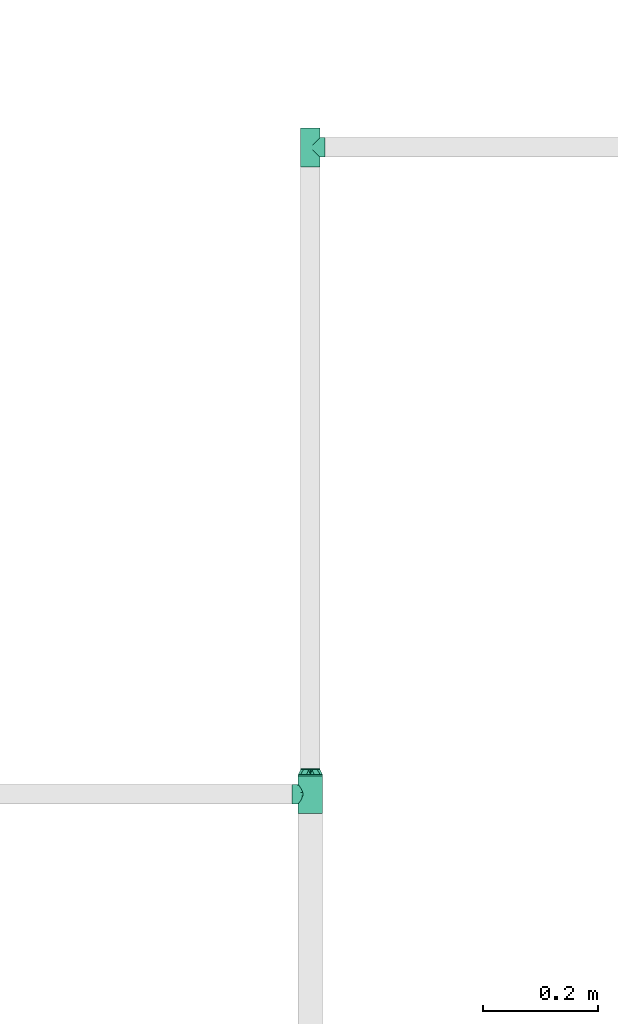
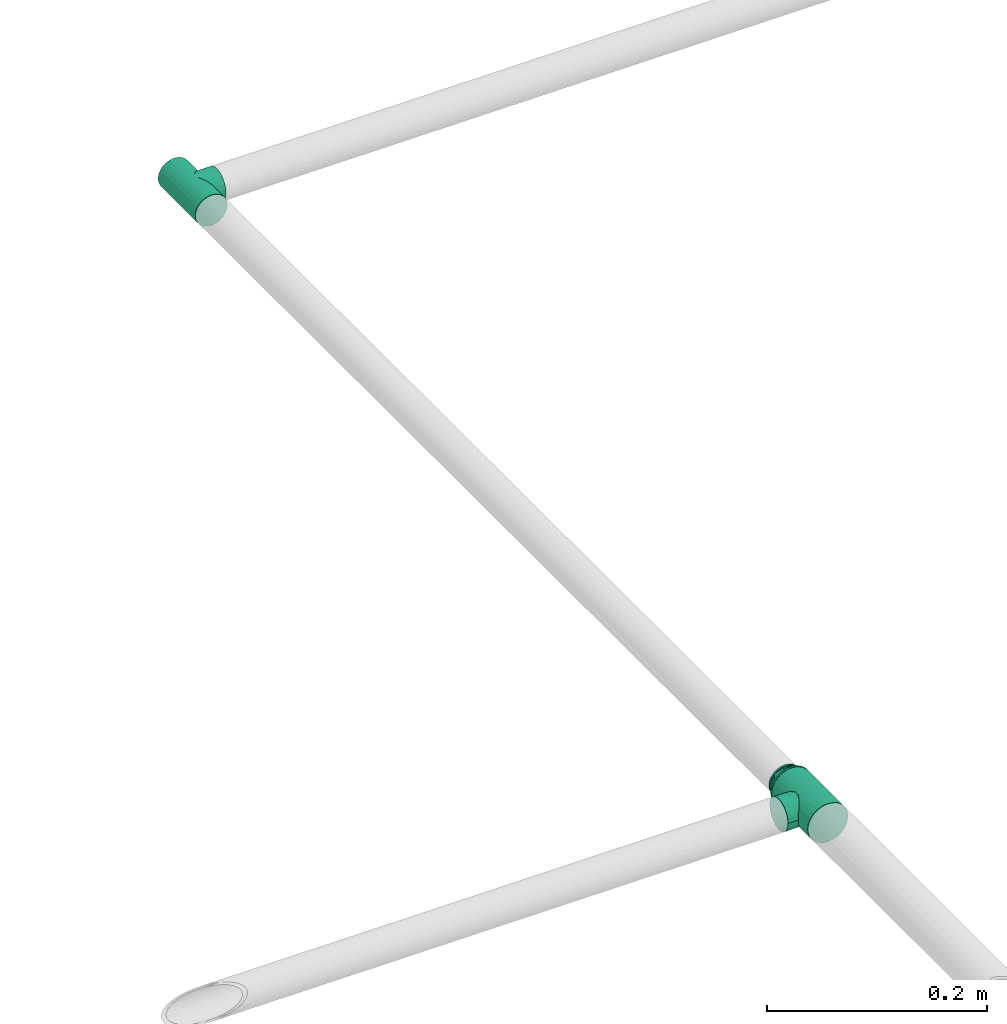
# One storey, part 80 of 94: 3 flow fittings.
"""IFC2X3 building model written with IfcOpenShell, lengths in millimetres."""

from ifc_helpers import new_model, entity, si_unit, converted_unit, derived_unit, direction, frame, origin_with_axes, place, context, subcontext, project, spatial, open_shell, surface_model, source, transform, mapped, type_object, element, save


model = new_model("IFC2X3")

# Units and contexts
model_context = context("Model", 3, precision=0.01, world=frame((0.0, 4.29681676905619e-09, 0.0)), true_north=direction((4.01073788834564e-13, 1.0)))
plan_context = context("Plan", 3, precision=0.01, world=frame((0.0, 4.29681676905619e-09, 0.0)), true_north=direction((4.01073788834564e-13, 1.0)))
body_context = subcontext(model_context, "Body", "Model", "MODEL_VIEW")
ifc_project = project(units=[converted_unit("PLANEANGLEUNIT", "DEGREE", entity("IfcPositiveLengthMeasure", 0.0174532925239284), si_unit("PLANEANGLEUNIT", "RADIAN"), dimensions=[0, 0, 0, 0, 0, 0, 0]), si_unit("AREAUNIT", "SQUARE_METRE"), si_unit("LENGTHUNIT", "METRE", prefix="MILLI"), si_unit("MASSUNIT", "GRAM", prefix="KILO"), si_unit("POWERUNIT", "WATT"), si_unit("PRESSUREUNIT", "PASCAL", prefix="KILO"), si_unit("FORCEUNIT", "NEWTON", prefix="KILO"), si_unit("ELECTRICVOLTAGEUNIT", "VOLT"), si_unit("ELECTRICCURRENTUNIT", "AMPERE"), si_unit("THERMODYNAMICTEMPERATUREUNIT", "DEGREE_CELSIUS"), si_unit("TIMEUNIT", "SECOND"), si_unit("VOLUMEUNIT", "CUBIC_METRE"), derived_unit("LINEARVELOCITYUNIT", [(si_unit("LENGTHUNIT", "METRE"), 1), (si_unit("TIMEUNIT", "SECOND"), -1)]), derived_unit("VOLUMETRICFLOWRATEUNIT", [(si_unit("VOLUMEUNIT", "CUBIC_METRE"), 1), (si_unit("TIMEUNIT", "SECOND"), -1)]), derived_unit("THERMALTRANSMITTANCEUNIT", [(si_unit("POWERUNIT", "WATT"), 1), (si_unit("THERMODYNAMICTEMPERATUREUNIT", "KELVIN"), -1), (si_unit("AREAUNIT", "SQUARE_METRE"), -1)]), derived_unit("SOUNDPRESSUREUNIT", [(si_unit("PRESSUREUNIT", "PASCAL"), 1)])], contexts=[model_context, plan_context])

# Site, building, storey
site_placement = place(None, frame((0.0, -4.29681676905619e-09, 0.0), z_axis=(0.0, 0.0, 1.0), x_axis=(1.0, 0.0, 0.0)))
site = spatial("IfcSite", under=ifc_project, at=site_placement, CompositionType="ELEMENT")
building_placement = place(site_placement, frame((0.0, 4.29681676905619e-09, 0.0), z_axis=(0.0, 0.0, 1.0), x_axis=(1.0, 0.0, 0.0)))
building = spatial("IfcBuilding", under=site, at=building_placement, Name="mc-building", CompositionType="ELEMENT")
storey_placement = place(building_placement, frame((0.0, 0.0, 210900.0), z_axis=(0.0, 0.0, 1.0), x_axis=(1.0, 0.0, 0.0)))
storey = spatial("IfcBuildingStorey", under=building, at=storey_placement, Name="Nivå F", CompositionType="ELEMENT", Elevation=210900.0)

# Flow fittings
pipe_fitting_type_1 = type_object("IfcPipeFittingType", Name="magi_pipe_fe_tee_centric_90_NOR", PredefinedType="JUNCTION")
shared_shape_1 = source(origin_with_axes(), body_context, "Body", "SurfaceModel", [
    surface_model("IfcShellBasedSurfaceModel", [(-33.8, 0.0, -21.2), (-33.8, -5.48696, -20.47763), (-33.8, 5.48696, -20.47763), (-33.8, 10.6, -18.35974), (-33.8, 14.99066, -14.99066), (-33.8, -20.47763, 5.48696), (-33.8, 18.35974, -10.6), (-33.8, 10.6, 18.35974), (-33.8, -14.99066, -14.99066), (-33.8, -18.35974, -10.6), (-33.8, -10.6, -18.35974), (-33.8, -20.47763, -5.48696), (-33.8, -21.2, 0.0), (-33.8, 18.35974, 10.6), (-33.8, 20.47763, -5.48696), (-33.8, 20.47763, 5.48696), (-33.8, 21.2, 0.0), (-33.8, 14.99066, 14.99066), (-33.8, 5.48696, 20.47763), (-33.8, 0.0, 21.2), (-33.8, -18.35974, 10.6), (-33.8, -14.99066, 14.99066), (-33.8, -10.6, 18.35974), (-33.8, -5.48696, 20.47763), (33.8, 5.48696, -20.47763), (33.8, -5.48696, -20.47763), (33.8, 0.0, -21.2), (33.8, 14.99066, -14.99066), (33.8, 10.6, -18.35974), (33.8, 18.35974, -10.6), (33.8, 20.47763, -5.48696), (33.8, -21.2, 0.0), (33.8, -10.6, -18.35974), (33.8, -18.35974, -10.6), (33.8, -14.99066, -14.99066), (33.8, -20.47763, -5.48696), (33.8, -20.47763, 5.48696), (33.8, 21.2, 0.0), (33.8, 20.47763, 5.48696), (33.8, 18.35974, 10.6), (33.8, 10.6, 18.35974), (33.8, 14.99066, 14.99066), (33.8, 0.0, 21.2), (33.8, 5.48696, 20.47763), (33.8, -14.99066, 14.99066), (33.8, -18.35974, 10.6), (33.8, -10.6, 18.35974), (33.8, -5.48696, 20.47763), (16.9, -21.2, 0.0), (15.78624, -20.32327, 6.03364), (12.81343, -18.11115, 11.01935), (8.52479, -15.37862, 14.59239), (3.07939, -13.16482, 16.61708), (-16.9, -21.2, 0.0), (-15.78686, -20.32375, 6.032), (-8.52604, -15.37932, 14.59166), (-3.0848, -13.16609, 16.61608), (-12.81602, -18.11299, 11.01634), (3.07939, -13.16482, -16.61708), (12.81343, -18.11115, -11.01935), (8.52479, -15.37862, -14.59239), (15.78624, -20.32327, -6.03364), (-3.0848, -13.16609, -16.61608), (-8.52604, -15.37932, -14.59166), (-12.81602, -18.11299, -11.01634), (-15.78686, -20.32375, -6.032), (4.37404, -31.8, -16.32415), (-16.9, -31.8, 0.0), (0.0, -31.8, -16.9), (14.63583, -31.8, -8.45), (8.45, -31.8, -14.63583), (16.32415, -31.8, -4.37404), (11.9501, -31.8, -11.9501), (-11.9501, -31.8, -11.9501), (-8.45, -31.8, -14.63583), (-4.37404, -31.8, -16.32415), (-14.63583, -31.8, -8.45), (-16.32415, -31.8, -4.37404), (16.9, -31.8, 0.0), (8.45, -31.8, 14.63583), (16.32415, -31.8, 4.37404), (14.63583, -31.8, 8.45), (-8.45, -31.8, 14.63583), (11.9501, -31.8, 11.9501), (4.37404, -31.8, 16.32415), (-16.32415, -31.8, 4.37404), (-11.9501, -31.8, 11.9501), (-14.63583, -31.8, 8.45), (0.0, -31.8, 16.9), (-4.37404, -31.8, 16.32415), (-16.34343, -20.76188, 3.016), (16.34312, -20.76163, 3.01682), (-0.00271, -13.16546, 16.61658), (16.34312, -20.76163, -3.01682), (-0.00271, -13.16546, -16.61658), (-16.34343, -20.76188, -3.016)], [open_shell([[[0, 1, 2]], [[3, 2, 4]], [[5, 2, 1]], [[4, 2, 6]], [[6, 2, 7]], [[8, 9, 10]], [[1, 10, 9]], [[9, 11, 1]], [[12, 1, 11]], [[5, 1, 12]], [[13, 14, 6]], [[13, 15, 16]], [[6, 7, 13]], [[5, 7, 2]], [[17, 13, 7]], [[18, 7, 19]], [[20, 21, 5]], [[22, 5, 21]], [[23, 19, 22]], [[7, 5, 22]], [[22, 19, 7]], [[16, 14, 13]], [[24, 25, 26]], [[27, 24, 28]], [[29, 30, 24]], [[29, 24, 27]], [[31, 24, 30]], [[32, 33, 34]], [[33, 32, 25]], [[33, 31, 35]], [[31, 33, 25]], [[25, 24, 31]], [[30, 36, 31]], [[37, 38, 39]], [[37, 39, 40]], [[37, 40, 36]], [[40, 39, 41]], [[42, 40, 43]], [[36, 44, 45]], [[44, 36, 46]], [[46, 42, 47]], [[46, 36, 40]], [[40, 42, 46]], [[37, 36, 30]], [[31, 36, 48]], [[49, 48, 36]], [[36, 45, 49]], [[45, 44, 50]], [[51, 50, 44]], [[52, 51, 44]], [[44, 46, 52]], [[45, 50, 49]], [[53, 54, 5]], [[5, 12, 53]], [[54, 20, 5]], [[55, 56, 21]], [[20, 57, 21]], [[57, 20, 54]], [[21, 57, 55]], [[56, 22, 21]], [[52, 22, 56]], [[19, 47, 42]], [[23, 46, 47]], [[18, 42, 43]], [[39, 38, 15]], [[17, 40, 41]], [[13, 41, 39]], [[43, 40, 7]], [[16, 38, 37]], [[22, 46, 23]], [[23, 47, 19]], [[18, 19, 42]], [[43, 7, 18]], [[7, 40, 17]], [[13, 17, 41]], [[15, 13, 39]], [[38, 16, 15]], [[46, 22, 52]], [[6, 30, 29]], [[14, 37, 30]], [[4, 29, 27]], [[26, 25, 1]], [[2, 28, 24]], [[0, 24, 26]], [[27, 28, 3]], [[10, 25, 32]], [[16, 37, 14]], [[14, 30, 6]], [[4, 6, 29]], [[27, 3, 4]], [[3, 28, 2]], [[0, 2, 24]], [[1, 0, 26]], [[25, 10, 1]], [[32, 58, 10]], [[34, 59, 60]], [[59, 34, 33]], [[60, 58, 34]], [[34, 58, 32]], [[35, 31, 48]], [[35, 61, 33]], [[61, 35, 48]], [[33, 61, 59]], [[62, 63, 8]], [[8, 64, 9]], [[64, 8, 63]], [[62, 8, 10]], [[65, 53, 11]], [[65, 11, 9]], [[11, 53, 12]], [[65, 9, 64]], [[58, 62, 10]], [[66, 67, 68]], [[69, 66, 70]], [[69, 71, 66]], [[69, 70, 72]], [[67, 66, 71]], [[68, 73, 74]], [[74, 75, 68]], [[76, 67, 77]], [[73, 68, 76]], [[67, 76, 68]], [[71, 78, 67]], [[79, 78, 80]], [[79, 80, 81]], [[82, 67, 79]], [[79, 81, 83]], [[82, 79, 84]], [[85, 86, 87]], [[86, 85, 82]], [[82, 88, 89]], [[85, 67, 82]], [[84, 88, 82]], [[79, 67, 78]], [[85, 90, 67]], [[57, 87, 86]], [[85, 87, 54]], [[86, 82, 55]], [[85, 54, 90]], [[90, 53, 67]], [[54, 87, 57]], [[91, 49, 80]], [[55, 89, 56]], [[55, 57, 86]], [[88, 52, 92]], [[55, 82, 89]], [[52, 88, 84]], [[79, 51, 84]], [[50, 83, 81]], [[83, 51, 79]], [[81, 80, 49]], [[83, 50, 51]], [[51, 52, 84]], [[78, 91, 80]], [[49, 50, 81]], [[91, 78, 48]], [[88, 56, 89]], [[92, 56, 88]], [[71, 93, 78]], [[59, 69, 72]], [[71, 69, 61]], [[72, 70, 60]], [[93, 48, 78]], [[61, 69, 59]], [[60, 66, 58]], [[60, 59, 72]], [[68, 62, 94]], [[60, 70, 66]], [[95, 67, 53]], [[95, 65, 77]], [[71, 61, 93]], [[75, 62, 68]], [[65, 76, 77]], [[73, 76, 64]], [[68, 58, 66]], [[75, 63, 62]], [[63, 75, 74]], [[74, 73, 63]], [[63, 73, 64]], [[64, 76, 65]], [[67, 95, 77]], [[94, 58, 68]]])]),
])
flow_fitting_1_placement = place(storey_placement, frame((720283.33546, 444869.70099, 3650.0), z_axis=(0.0, 0.0, 1.0), x_axis=(0.0, -1.0, 0.0)))
element("IfcFlowFitting", 1, at=flow_fitting_1_placement, inside=storey, type_object=pipe_fitting_type_1, Name="magi_pipe_fe_tee_centric_90_NOR", context=body_context, shape_type="MappedRepresentation", body=[
    mapped(shared_shape_1, transform((0.0, 0.0, 0.0), scale=1.0)),
])
pipe_fitting_type_2 = type_object("IfcPipeFittingType", Name="magi_pipe_fe_reducer_centric_short_NOR", PredefinedType="TRANSITION")
shared_shape_2 = source(origin_with_axes(), body_context, "Body", "SurfaceModel", [
    surface_model("IfcShellBasedSurfaceModel", [(-2.0, -10.6, -18.35974), (-2.0, 0.0, -21.2), (-2.0, -5.48696, -20.47763), (-2.0, 5.48696, -20.47763), (-2.0, 10.6, -18.35974), (8.6, -11.9501, -11.9501), (8.6, -11.9501, 11.9501), (8.6, -16.9, 0.0), (8.6, 11.9501, -11.9501), (8.6, 16.9, 0.0), (8.6, 0.0, -16.9), (0.0, 17.15116, 12.46105), (0.0, 6.55116, -20.1624), (0.0, -21.2, 0.0), (0.0, -6.55116, -20.1624), (0.0, -17.15116, -12.46105), (8.6, 2.98753, -15.66253), (0.0, 0.0, -20.1624), (0.0, -11.85116, -16.31172), (8.6, -2.98753, -15.66253), (8.6, 8.96258, -13.18758), (8.6, 5.97505, -14.42505), (0.0, 11.85116, -16.31172), (8.6, -5.97505, -14.42505), (8.6, -13.18758, -8.96258), (8.6, -8.96258, -13.18758), (0.0, -6.55116, 20.1624), (8.6, -2.98753, 15.66253), (0.0, 0.0, 20.1624), (8.6, 11.9501, 11.9501), (0.0, 11.85116, 16.31172), (8.6, 2.98753, 15.66253), (0.0, 6.55116, 20.1624), (8.6, -8.96258, 13.18758), (8.6, -5.97505, 14.42505), (0.0, -11.85116, 16.31172), (8.6, 5.97505, 14.42505), (8.6, 13.18758, 8.96258), (8.6, 8.96258, 13.18758), (10.6, 4.37404, -16.32415), (10.6, 8.45, -14.63583), (10.6, 11.9501, -11.9501), (10.6, -8.45, -14.63583), (10.6, 16.32415, -4.37404), (10.6, 16.32415, 4.37404), (10.6, 14.63583, -8.45), (10.6, 0.0, -16.9), (10.6, -4.37404, -16.32415), (10.6, -11.9501, -11.9501), (10.6, -16.32415, -4.37404), (10.6, -14.63583, -8.45), (10.6, -16.32415, 4.37404), (10.6, 16.9, 0.0), (10.6, 14.63583, 8.45), (10.6, 11.9501, 11.9501), (10.6, 4.37404, 16.32415), (10.6, 8.45, 14.63583), (10.6, 0.0, 16.9), (10.6, -14.63583, 8.45), (10.6, -16.9, 0.0), (10.6, -8.45, 14.63583), (10.6, -11.9501, 11.9501), (10.6, -4.37404, 16.32415), (8.6, 4.37404, 16.32415), (8.6, -14.63583, 8.45), (8.6, 0.0, 16.9), (8.6, 16.32415, 4.37404), (8.6, 8.45, 14.63583), (8.6, 14.63583, 8.45), (8.6, -8.45, 14.63583), (8.6, -4.37404, 16.32415), (8.6, -16.32415, 4.37404), (8.6, -16.32415, -4.37404), (8.6, -8.45, -14.63583), (8.6, 16.32415, -4.37404), (8.6, 14.63583, -8.45), (8.6, 8.45, -14.63583), (8.6, 4.37404, -16.32415), (8.6, -14.63583, -8.45), (8.6, -4.37404, -16.32415), (-2.0, 0.0, 21.2), (-2.0, 5.48696, 20.47763), (-2.0, 10.6, 18.35974), (-2.0, 14.99066, 14.99066), (-2.0, 18.35974, 10.6), (-2.0, 20.47763, 5.48696), (-2.0, -21.2, 0.0), (-2.0, -14.99066, -14.99066), (-2.0, -5.48696, 20.47763), (-2.0, -14.99066, 14.99066), (-2.0, -10.6, 18.35974), (-2.0, -18.35974, 10.6), (-2.0, -20.47763, 5.48696), (-2.0, 20.47763, -5.48696), (-2.0, 14.99066, -14.99066), (-2.0, 18.35974, -10.6), (-2.0, -18.35974, -10.6), (-2.0, -20.47763, -5.48696), (-2.0, 21.2, 0.0), (0.0, 10.6, -18.35974), (0.0, 0.0, -21.2), (0.0, 5.48696, -20.47763), (0.0, 20.47763, -5.48696), (0.0, 14.99066, -14.99066), (0.0, -14.99066, -14.99066), (0.0, 18.35974, -10.6), (0.0, -10.6, -18.35974), (0.0, -5.48696, -20.47763), (0.0, -18.35974, -10.6), (0.0, -20.47763, -5.48696), (0.0, -18.35974, 10.6), (0.0, 21.2, 0.0), (0.0, 20.47763, 5.48696), (0.0, 18.35974, 10.6), (0.0, 14.99066, 14.99066), (0.0, 0.0, 21.2), (0.0, 10.6, 18.35974), (0.0, 5.48696, 20.47763), (0.0, -14.99066, 14.99066), (0.0, -20.47763, 5.48696), (0.0, -5.48696, 20.47763), (0.0, -10.6, 18.35974), (0.0, -17.15116, 12.46105), (0.0, 17.15116, -12.46105), (0.0, 14.50116, -14.38638), (8.6, -14.42505, -5.97505), (0.0, -19.17558, -6.23052), (0.0, -18.16337, -9.34579), (8.6, 14.42505, -5.97505), (0.0, 19.17558, -6.23052), (8.6, 13.18758, -8.96258), (8.6, 15.66253, -2.98753), (8.6, -15.66253, -2.98753), (0.0, -14.50116, 14.38638), (8.6, 14.42505, 5.97505), (0.0, 19.17558, 6.23052), (0.0, 18.16337, 9.34579), (8.6, -14.42505, 5.97505), (0.0, -19.17558, 6.23052), (8.6, -13.18758, 8.96258), (8.6, -15.66253, 2.98753), (8.6, 15.66253, 2.98753)], [open_shell([[[0, 1, 2]], [[3, 1, 4]], [[5, 6, 7]], [[8, 9, 10]], [[11, 12, 13]], [[13, 12, 14]], [[13, 14, 15]], [[12, 16, 17]], [[5, 15, 18]], [[17, 19, 14]], [[20, 21, 22]], [[19, 23, 14]], [[12, 21, 16]], [[15, 5, 24]], [[25, 5, 18]], [[22, 8, 20]], [[26, 27, 28]], [[29, 11, 30]], [[28, 31, 32]], [[33, 34, 35]], [[31, 36, 32]], [[26, 34, 27]], [[11, 29, 37]], [[38, 29, 30]], [[35, 6, 33]], [[39, 40, 41]], [[42, 39, 41]], [[41, 43, 44]], [[43, 41, 45]], [[41, 44, 42]], [[46, 42, 47]], [[46, 39, 42]], [[48, 49, 50]], [[49, 48, 42]], [[42, 51, 49]], [[44, 43, 52]], [[44, 53, 54]], [[44, 54, 55]], [[55, 51, 42]], [[55, 54, 56]], [[51, 55, 57]], [[57, 58, 51]], [[59, 49, 51]], [[58, 60, 61]], [[58, 57, 60]], [[60, 57, 62]], [[42, 44, 55]], [[63, 64, 65]], [[66, 63, 67]], [[29, 68, 66]], [[29, 66, 67]], [[64, 63, 66]], [[69, 64, 6]], [[69, 70, 65]], [[65, 64, 69]], [[71, 64, 66]], [[71, 72, 7]], [[71, 66, 73]], [[66, 74, 8]], [[8, 74, 75]], [[8, 76, 77]], [[73, 66, 8]], [[77, 10, 8]], [[72, 5, 78]], [[5, 72, 73]], [[73, 10, 79]], [[72, 71, 73]], [[8, 10, 73]], [[74, 66, 9]], [[72, 49, 7]], [[78, 50, 72]], [[42, 5, 73]], [[78, 5, 48]], [[47, 73, 79]], [[72, 50, 49]], [[49, 59, 7]], [[47, 42, 73]], [[48, 5, 42]], [[48, 50, 78]], [[46, 47, 79]], [[79, 10, 46]], [[77, 39, 10]], [[76, 40, 77]], [[45, 8, 75]], [[76, 8, 41]], [[43, 75, 74]], [[76, 41, 40]], [[40, 39, 77]], [[52, 43, 74]], [[45, 75, 43]], [[45, 41, 8]], [[9, 52, 74]], [[10, 39, 46]], [[66, 44, 9]], [[68, 53, 66]], [[56, 29, 67]], [[68, 29, 54]], [[55, 67, 63]], [[66, 53, 44]], [[44, 52, 9]], [[55, 56, 67]], [[54, 29, 56]], [[54, 53, 68]], [[57, 55, 63]], [[63, 65, 57]], [[70, 62, 65]], [[69, 60, 70]], [[58, 6, 64]], [[69, 6, 61]], [[51, 64, 71]], [[69, 61, 60]], [[60, 62, 70]], [[59, 51, 71]], [[58, 64, 51]], [[58, 61, 6]], [[7, 59, 71]], [[65, 62, 57]], [[80, 81, 82]], [[80, 82, 83]], [[83, 84, 85]], [[83, 85, 80]], [[86, 80, 87]], [[88, 89, 90]], [[88, 80, 89]], [[91, 86, 92]], [[89, 80, 91]], [[80, 86, 91]], [[80, 85, 87]], [[85, 93, 4]], [[94, 93, 95]], [[87, 85, 4]], [[4, 93, 94]], [[86, 96, 97]], [[87, 96, 86]], [[0, 87, 4]], [[1, 0, 4]], [[93, 85, 98]], [[99, 100, 101]], [[102, 99, 103]], [[13, 104, 99]], [[102, 103, 105]], [[102, 13, 99]], [[100, 106, 107]], [[100, 99, 106]], [[108, 13, 109]], [[106, 99, 104]], [[108, 104, 13]], [[110, 102, 111]], [[112, 113, 114]], [[112, 114, 115]], [[116, 117, 115]], [[116, 115, 114]], [[112, 115, 118]], [[13, 110, 119]], [[102, 110, 13]], [[118, 120, 121]], [[110, 112, 118]], [[115, 120, 118]], [[110, 111, 112]], [[97, 109, 86]], [[96, 108, 97]], [[106, 87, 0]], [[96, 87, 104]], [[107, 0, 2]], [[97, 108, 109]], [[109, 13, 86]], [[107, 106, 0]], [[104, 87, 106]], [[104, 108, 96]], [[100, 107, 2]], [[2, 1, 100]], [[3, 101, 1]], [[4, 99, 3]], [[105, 94, 95]], [[4, 94, 103]], [[102, 95, 93]], [[4, 103, 99]], [[99, 101, 3]], [[111, 102, 93]], [[105, 95, 102]], [[105, 103, 94]], [[98, 111, 93]], [[1, 101, 100]], [[85, 112, 98]], [[84, 113, 85]], [[116, 83, 82]], [[84, 83, 114]], [[117, 82, 81]], [[85, 113, 112]], [[112, 111, 98]], [[117, 116, 82]], [[114, 83, 116]], [[114, 113, 84]], [[115, 117, 81]], [[81, 80, 115]], [[88, 120, 80]], [[90, 121, 88]], [[110, 89, 91]], [[90, 89, 118]], [[119, 91, 92]], [[90, 118, 121]], [[121, 120, 88]], [[13, 119, 92]], [[110, 91, 119]], [[110, 118, 89]], [[86, 13, 92]], [[80, 120, 115]], [[65, 6, 29]], [[9, 29, 6]], [[6, 10, 9]], [[10, 6, 5]], [[32, 11, 122]], [[32, 122, 26]], [[122, 11, 13]], [[12, 11, 123]], [[123, 11, 111]], [[8, 22, 124]], [[125, 126, 127]], [[22, 21, 12]], [[8, 124, 123]], [[128, 123, 129]], [[17, 16, 10]], [[123, 128, 130]], [[111, 131, 129]], [[13, 132, 7]], [[18, 23, 25]], [[13, 126, 132]], [[19, 17, 10]], [[131, 111, 9]], [[125, 132, 126]], [[15, 24, 127]], [[24, 125, 127]], [[8, 123, 130]], [[23, 18, 14]], [[131, 128, 129]], [[6, 35, 133]], [[134, 135, 136]], [[35, 34, 26]], [[6, 133, 122]], [[137, 122, 138]], [[28, 27, 65]], [[122, 137, 139]], [[13, 140, 138]], [[111, 141, 9]], [[30, 36, 38]], [[111, 135, 141]], [[31, 28, 65]], [[140, 13, 7]], [[134, 141, 135]], [[11, 37, 136]], [[37, 134, 136]], [[6, 122, 139]], [[36, 30, 32]], [[140, 137, 138]]])]),
])
flow_fitting_2_placement = place(storey_placement, frame((720283.33546, 444903.50099, 3650.0), z_axis=(0.0, 0.0, 1.0), x_axis=(0.0, 1.0, 0.0)))
element("IfcFlowFitting", 2, at=flow_fitting_2_placement, inside=storey, type_object=pipe_fitting_type_2, Name="magi_pipe_fe_reducer_centric_short_NOR", context=body_context, shape_type="MappedRepresentation", body=[
    mapped(shared_shape_2, transform((0.0, 0.0, 0.0), scale=1.0)),
])
shared_shape_3 = source(origin_with_axes(), body_context, "Body", "SurfaceModel", [
    surface_model("IfcShellBasedSurfaceModel", [(-33.8, 4.37404, -16.32415), (-33.8, 0.0, -16.9), (-33.8, 16.32415, -4.37404), (-33.8, 8.45, -14.63583), (-33.8, 11.9501, -11.9501), (-33.8, 14.63583, -8.45), (-33.8, -16.9, 0.0), (-33.8, -11.9501, -11.9501), (-33.8, -14.63583, -8.45), (-33.8, -8.45, -14.63583), (-33.8, -4.37404, -16.32415), (-33.8, -16.32415, -4.37404), (-33.8, 14.63583, 8.45), (-33.8, 16.32415, 4.37404), (-33.8, -8.45, 14.63583), (-33.8, 8.45, 14.63583), (-33.8, 11.9501, 11.9501), (-33.8, 4.37404, 16.32415), (-33.8, 0.0, 16.9), (-33.8, -11.9501, 11.9501), (-33.8, -14.63583, 8.45), (-33.8, -16.32415, 4.37404), (-33.8, -4.37404, 16.32415), (-33.8, 16.9, 0.0), (33.8, 4.37404, -16.32415), (33.8, -16.9, 0.0), (33.8, 0.0, -16.9), (33.8, 14.63583, -8.45), (33.8, 8.45, -14.63583), (33.8, 16.32415, -4.37404), (33.8, 11.9501, -11.9501), (33.8, -16.32415, 4.37404), (33.8, -8.45, -14.63583), (33.8, -4.37404, -16.32415), (33.8, -11.9501, -11.9501), (33.8, -14.63583, -8.45), (33.8, -16.32415, -4.37404), (33.8, 16.32415, 4.37404), (33.8, 8.45, 14.63583), (33.8, 14.63583, 8.45), (33.8, 11.9501, 11.9501), (33.8, -8.45, 14.63583), (33.8, 4.37404, 16.32415), (33.8, -14.63583, 8.45), (33.8, -11.9501, 11.9501), (33.8, 0.0, 16.9), (33.8, -4.37404, 16.32415), (33.8, 16.9, 0.0), (16.28698, -16.28698, 4.51047), (16.9, -16.9, 0.0), (14.62704, -14.62704, 8.4652), (9.47213, -9.47213, 13.99602), (12.26343, -12.26343, 11.62834), (-16.9, -16.9, 0.0), (-16.28698, -16.28698, 4.51047), (-14.62704, -14.62704, 8.4652), (-12.26343, -12.26343, 11.62834), (-9.47213, -9.47213, 13.99602), (-6.42894, -6.42894, 15.62942), (6.42894, -6.42894, 15.62942), (3.24522, -3.24522, 16.58549), (0.0, 0.0, 16.9), (-3.24522, -3.24522, 16.58549), (3.24522, -3.24522, -16.58549), (0.0, 0.0, -16.9), (-3.24522, -3.24522, -16.58549), (-6.42894, -6.42894, -15.62942), (6.42894, -6.42894, -15.62942), (9.47213, -9.47213, -13.99602), (12.26343, -12.26343, -11.62834), (14.62704, -14.62704, -8.4652), (16.28698, -16.28698, -4.51047), (-9.47213, -9.47213, -13.99602), (-12.26343, -12.26343, -11.62834), (-16.28698, -16.28698, -4.51047), (-14.62704, -14.62704, -8.4652), (4.37404, -25.35, -16.32415), (-16.9, -25.35, 0.0), (0.0, -25.35, -16.9), (14.63583, -25.35, -8.45), (8.45, -25.35, -14.63583), (16.32415, -25.35, -4.37404), (11.9501, -25.35, -11.9501), (-11.9501, -25.35, -11.9501), (-8.45, -25.35, -14.63583), (-4.37404, -25.35, -16.32415), (-14.63583, -25.35, -8.45), (-16.32415, -25.35, -4.37404), (16.9, -25.35, 0.0), (8.45, -25.35, 14.63583), (16.32415, -25.35, 4.37404), (14.63583, -25.35, 8.45), (-8.45, -25.35, 14.63583), (11.9501, -25.35, 11.9501), (4.37404, -25.35, 16.32415), (-16.32415, -25.35, 4.37404), (-11.9501, -25.35, 11.9501), (-14.63583, -25.35, 8.45), (0.0, -25.35, 16.9), (-4.37404, -25.35, 16.32415)], [open_shell([[[0, 1, 2]], [[3, 0, 4]], [[0, 2, 5]], [[4, 0, 5]], [[6, 2, 1]], [[7, 8, 9]], [[1, 10, 9]], [[11, 6, 8]], [[1, 9, 8]], [[1, 8, 6]], [[6, 12, 2]], [[12, 13, 2]], [[14, 12, 6]], [[12, 14, 15]], [[16, 12, 15]], [[17, 15, 18]], [[19, 14, 20]], [[21, 20, 14]], [[22, 18, 14]], [[14, 6, 21]], [[14, 18, 15]], [[23, 2, 13]], [[24, 25, 26]], [[27, 24, 28]], [[27, 29, 24]], [[27, 28, 30]], [[31, 25, 24]], [[26, 32, 33]], [[26, 34, 32]], [[35, 25, 36]], [[35, 34, 26]], [[25, 35, 26]], [[24, 29, 31]], [[29, 37, 38]], [[38, 37, 39]], [[38, 31, 29]], [[38, 39, 40]], [[41, 38, 42]], [[43, 41, 44]], [[41, 43, 31]], [[41, 45, 46]], [[41, 31, 38]], [[42, 45, 41]], [[29, 47, 37]], [[31, 43, 48]], [[25, 31, 49]], [[49, 31, 48]], [[43, 50, 48]], [[44, 41, 51]], [[50, 43, 52]], [[51, 52, 44]], [[52, 43, 44]], [[53, 54, 21]], [[53, 21, 6]], [[21, 54, 20]], [[54, 55, 20]], [[56, 57, 19]], [[19, 20, 56]], [[19, 57, 14]], [[56, 20, 55]], [[14, 57, 58]], [[51, 41, 59]], [[60, 45, 61]], [[59, 46, 60]], [[46, 59, 41]], [[60, 46, 45]], [[61, 45, 42]], [[39, 37, 13]], [[16, 38, 40]], [[12, 40, 39]], [[42, 38, 15]], [[23, 37, 47]], [[62, 61, 18]], [[62, 22, 58]], [[22, 62, 18]], [[58, 22, 14]], [[61, 17, 18]], [[42, 17, 61]], [[15, 17, 42]], [[15, 38, 16]], [[12, 16, 40]], [[13, 12, 39]], [[37, 23, 13]], [[5, 27, 30]], [[23, 47, 29]], [[30, 28, 3]], [[27, 2, 29]], [[26, 33, 63]], [[26, 64, 24]], [[64, 26, 63]], [[28, 24, 0]], [[64, 0, 24]], [[4, 30, 3]], [[2, 27, 5]], [[5, 30, 4]], [[2, 23, 29]], [[65, 66, 10]], [[1, 0, 64]], [[1, 65, 10]], [[66, 9, 10]], [[0, 3, 28]], [[1, 64, 65]], [[63, 33, 67]], [[32, 34, 68]], [[69, 68, 34]], [[35, 70, 69]], [[69, 34, 35]], [[32, 68, 67]], [[36, 25, 49]], [[36, 71, 35]], [[71, 36, 49]], [[35, 71, 70]], [[72, 9, 66]], [[72, 7, 9]], [[7, 72, 73]], [[7, 73, 8]], [[74, 53, 11]], [[75, 74, 8]], [[74, 11, 8]], [[11, 53, 6]], [[75, 8, 73]], [[32, 67, 33]], [[76, 77, 78]], [[79, 76, 80]], [[79, 81, 76]], [[79, 80, 82]], [[77, 76, 81]], [[78, 83, 84]], [[84, 85, 78]], [[86, 77, 87]], [[83, 78, 86]], [[77, 86, 78]], [[81, 88, 77]], [[89, 88, 90]], [[89, 90, 91]], [[92, 77, 89]], [[89, 91, 93]], [[92, 89, 94]], [[95, 96, 97]], [[96, 95, 92]], [[92, 98, 99]], [[95, 77, 92]], [[94, 98, 92]], [[89, 77, 88]], [[77, 95, 53]], [[54, 53, 95]], [[97, 96, 56]], [[96, 92, 57]], [[95, 97, 54]], [[58, 92, 99]], [[55, 54, 97]], [[56, 55, 97]], [[58, 57, 92]], [[98, 61, 62]], [[58, 99, 62]], [[56, 96, 57]], [[62, 99, 98]], [[94, 60, 98]], [[89, 59, 94]], [[91, 90, 48]], [[52, 93, 91]], [[93, 51, 89]], [[49, 90, 88]], [[59, 60, 94]], [[51, 59, 89]], [[49, 48, 90]], [[50, 52, 91]], [[48, 50, 91]], [[51, 93, 52]], [[98, 60, 61]], [[88, 81, 49]], [[71, 49, 81]], [[79, 82, 69]], [[82, 80, 68]], [[81, 79, 71]], [[67, 80, 76]], [[70, 71, 79]], [[69, 70, 79]], [[67, 68, 80]], [[78, 64, 63]], [[67, 76, 63]], [[69, 82, 68]], [[63, 76, 78]], [[85, 65, 78]], [[84, 66, 85]], [[86, 87, 74]], [[86, 73, 83]], [[72, 84, 83]], [[53, 87, 77]], [[66, 65, 85]], [[72, 66, 84]], [[53, 74, 87]], [[75, 73, 86]], [[74, 75, 86]], [[72, 83, 73]], [[78, 65, 64]]])]),
])
flow_fitting_3_placement = place(storey_placement, frame((720283.33546, 445990.49682, 3650.0), z_axis=(0.0, 0.0, -1.0), x_axis=(0.0, -1.0, 0.0)))
element("IfcFlowFitting", 3, at=flow_fitting_3_placement, inside=storey, type_object=pipe_fitting_type_1, Name="magi_pipe_fe_tee_centric_90_NOR", context=body_context, shape_type="MappedRepresentation", body=[
    mapped(shared_shape_3, transform((0.0, 0.0, 0.0), scale=1.0)),
])

save(model, "model.ifc")
